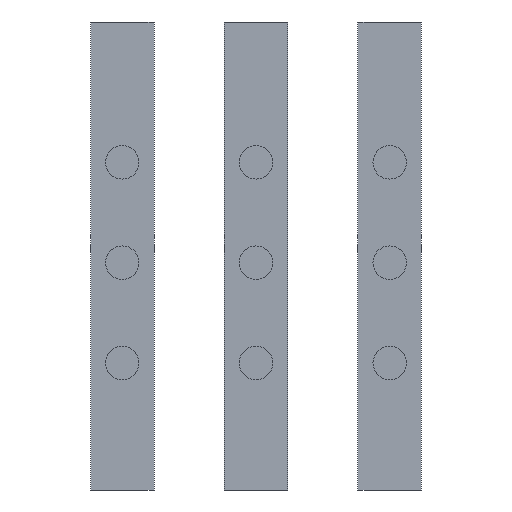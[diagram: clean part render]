
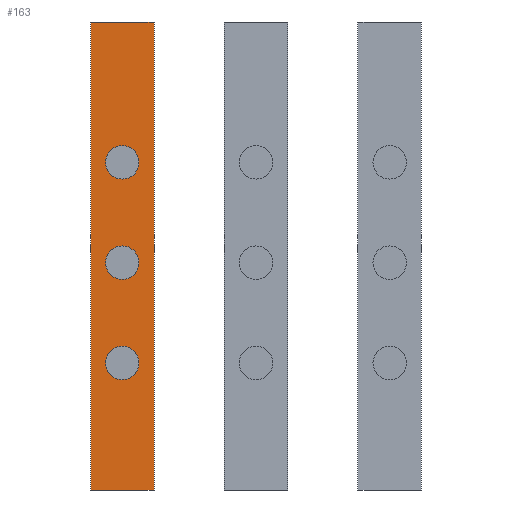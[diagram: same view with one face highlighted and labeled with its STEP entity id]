
A CAD part, front view. The second image highlights one B-rep face of the part: STEP entity #163.
In plain terms, the highlighted planar face has unit normal (0, -1, 0).
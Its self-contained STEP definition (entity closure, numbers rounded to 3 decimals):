
#47 = EDGE_CURVE('',#48,#50,#52,.T.);
#48 = VERTEX_POINT('',#49);
#49 = CARTESIAN_POINT('',(-36.,-34.,-115.));
#50 = VERTEX_POINT('',#51);
#51 = CARTESIAN_POINT('',(-36.,-34.,-45.));
#52 = SURFACE_CURVE('',#53,(#57,#69),.PCURVE_S1.);
#53 = LINE('',#54,#55);
#54 = CARTESIAN_POINT('',(-36.,-34.,-115.));
#55 = VECTOR('',#56,1.);
#56 = DIRECTION('',(0.,0.,1.));
#57 = PCURVE('',#58,#63);
#58 = PLANE('',#59);
#59 = AXIS2_PLACEMENT_3D('',#60,#61,#62);
#60 = CARTESIAN_POINT('',(-36.,-34.,-115.));
#61 = DIRECTION('',(1.,0.,0.));
#62 = DIRECTION('',(0.,0.,1.));
#63 = DEFINITIONAL_REPRESENTATION('',(#64),#68);
#64 = LINE('',#65,#66);
#65 = CARTESIAN_POINT('',(0.,0.));
#66 = VECTOR('',#67,1.);
#67 = DIRECTION('',(1.,0.));
#68 = ( GEOMETRIC_REPRESENTATION_CONTEXT(2) 
PARAMETRIC_REPRESENTATION_CONTEXT() REPRESENTATION_CONTEXT('2D SPACE',''
  ) );
#69 = PCURVE('',#70,#75);
#70 = PLANE('',#71);
#71 = AXIS2_PLACEMENT_3D('',#72,#73,#74);
#72 = CARTESIAN_POINT('',(-36.,-34.,-115.));
#73 = DIRECTION('',(0.,1.,0.));
#74 = DIRECTION('',(0.,0.,1.));
#75 = DEFINITIONAL_REPRESENTATION('',(#76),#80);
#76 = LINE('',#77,#78);
#77 = CARTESIAN_POINT('',(0.,0.));
#78 = VECTOR('',#79,1.);
#79 = DIRECTION('',(1.,0.));
#80 = ( GEOMETRIC_REPRESENTATION_CONTEXT(2) 
PARAMETRIC_REPRESENTATION_CONTEXT() REPRESENTATION_CONTEXT('2D SPACE',''
  ) );
#98 = PLANE('',#99);
#99 = AXIS2_PLACEMENT_3D('',#100,#101,#102);
#100 = CARTESIAN_POINT('',(-36.,-34.,-115.));
#101 = DIRECTION('',(0.,0.,1.));
#102 = DIRECTION('',(1.,0.,0.));
#152 = PLANE('',#153);
#153 = AXIS2_PLACEMENT_3D('',#154,#155,#156);
#154 = CARTESIAN_POINT('',(-36.,-34.,-45.));
#155 = DIRECTION('',(0.,0.,1.));
#156 = DIRECTION('',(1.,0.,0.));
#163 = ADVANCED_FACE('',(#164,#239,#274,#309),#70,.F.);
#164 = FACE_BOUND('',#165,.F.);
#165 = EDGE_LOOP('',(#166,#189,#190,#213));
#166 = ORIENTED_EDGE('',*,*,#167,.F.);
#167 = EDGE_CURVE('',#48,#168,#170,.T.);
#168 = VERTEX_POINT('',#169);
#169 = CARTESIAN_POINT('',(-26.5,-34.,-115.));
#170 = SURFACE_CURVE('',#171,(#175,#182),.PCURVE_S1.);
#171 = LINE('',#172,#173);
#172 = CARTESIAN_POINT('',(-36.,-34.,-115.));
#173 = VECTOR('',#174,1.);
#174 = DIRECTION('',(1.,0.,0.));
#175 = PCURVE('',#70,#176);
#176 = DEFINITIONAL_REPRESENTATION('',(#177),#181);
#177 = LINE('',#178,#179);
#178 = CARTESIAN_POINT('',(0.,0.));
#179 = VECTOR('',#180,1.);
#180 = DIRECTION('',(0.,1.));
#181 = ( GEOMETRIC_REPRESENTATION_CONTEXT(2) 
PARAMETRIC_REPRESENTATION_CONTEXT() REPRESENTATION_CONTEXT('2D SPACE',''
  ) );
#182 = PCURVE('',#98,#183);
#183 = DEFINITIONAL_REPRESENTATION('',(#184),#188);
#184 = LINE('',#185,#186);
#185 = CARTESIAN_POINT('',(0.,0.));
#186 = VECTOR('',#187,1.);
#187 = DIRECTION('',(1.,0.));
#188 = ( GEOMETRIC_REPRESENTATION_CONTEXT(2) 
PARAMETRIC_REPRESENTATION_CONTEXT() REPRESENTATION_CONTEXT('2D SPACE',''
  ) );
#189 = ORIENTED_EDGE('',*,*,#47,.T.);
#190 = ORIENTED_EDGE('',*,*,#191,.T.);
#191 = EDGE_CURVE('',#50,#192,#194,.T.);
#192 = VERTEX_POINT('',#193);
#193 = CARTESIAN_POINT('',(-26.5,-34.,-45.));
#194 = SURFACE_CURVE('',#195,(#199,#206),.PCURVE_S1.);
#195 = LINE('',#196,#197);
#196 = CARTESIAN_POINT('',(-36.,-34.,-45.));
#197 = VECTOR('',#198,1.);
#198 = DIRECTION('',(1.,0.,0.));
#199 = PCURVE('',#70,#200);
#200 = DEFINITIONAL_REPRESENTATION('',(#201),#205);
#201 = LINE('',#202,#203);
#202 = CARTESIAN_POINT('',(70.,0.));
#203 = VECTOR('',#204,1.);
#204 = DIRECTION('',(0.,1.));
#205 = ( GEOMETRIC_REPRESENTATION_CONTEXT(2) 
PARAMETRIC_REPRESENTATION_CONTEXT() REPRESENTATION_CONTEXT('2D SPACE',''
  ) );
#206 = PCURVE('',#152,#207);
#207 = DEFINITIONAL_REPRESENTATION('',(#208),#212);
#208 = LINE('',#209,#210);
#209 = CARTESIAN_POINT('',(0.,0.));
#210 = VECTOR('',#211,1.);
#211 = DIRECTION('',(1.,0.));
#212 = ( GEOMETRIC_REPRESENTATION_CONTEXT(2) 
PARAMETRIC_REPRESENTATION_CONTEXT() REPRESENTATION_CONTEXT('2D SPACE',''
  ) );
#213 = ORIENTED_EDGE('',*,*,#214,.F.);
#214 = EDGE_CURVE('',#168,#192,#215,.T.);
#215 = SURFACE_CURVE('',#216,(#220,#227),.PCURVE_S1.);
#216 = LINE('',#217,#218);
#217 = CARTESIAN_POINT('',(-26.5,-34.,-115.));
#218 = VECTOR('',#219,1.);
#219 = DIRECTION('',(0.,0.,1.));
#220 = PCURVE('',#70,#221);
#221 = DEFINITIONAL_REPRESENTATION('',(#222),#226);
#222 = LINE('',#223,#224);
#223 = CARTESIAN_POINT('',(0.,9.5));
#224 = VECTOR('',#225,1.);
#225 = DIRECTION('',(1.,0.));
#226 = ( GEOMETRIC_REPRESENTATION_CONTEXT(2) 
PARAMETRIC_REPRESENTATION_CONTEXT() REPRESENTATION_CONTEXT('2D SPACE',''
  ) );
#227 = PCURVE('',#228,#233);
#228 = PLANE('',#229);
#229 = AXIS2_PLACEMENT_3D('',#230,#231,#232);
#230 = CARTESIAN_POINT('',(-26.5,-34.,-115.));
#231 = DIRECTION('',(1.,0.,0.));
#232 = DIRECTION('',(0.,0.,1.));
#233 = DEFINITIONAL_REPRESENTATION('',(#234),#238);
#234 = LINE('',#235,#236);
#235 = CARTESIAN_POINT('',(0.,0.));
#236 = VECTOR('',#237,1.);
#237 = DIRECTION('',(1.,0.));
#238 = ( GEOMETRIC_REPRESENTATION_CONTEXT(2) 
PARAMETRIC_REPRESENTATION_CONTEXT() REPRESENTATION_CONTEXT('2D SPACE',''
  ) );
#239 = FACE_BOUND('',#240,.F.);
#240 = EDGE_LOOP('',(#241));
#241 = ORIENTED_EDGE('',*,*,#242,.T.);
#242 = EDGE_CURVE('',#243,#243,#245,.T.);
#243 = VERTEX_POINT('',#244);
#244 = CARTESIAN_POINT('',(-30.05,-34.,-96.));
#245 = SURFACE_CURVE('',#246,(#251,#262),.PCURVE_S1.);
#246 = CIRCLE('',#247,1.2);
#247 = AXIS2_PLACEMENT_3D('',#248,#249,#250);
#248 = CARTESIAN_POINT('',(-31.25,-34.,-96.));
#249 = DIRECTION('',(0.,-1.,-0.));
#250 = DIRECTION('',(1.,0.,0.));
#251 = PCURVE('',#70,#252);
#252 = DEFINITIONAL_REPRESENTATION('',(#253),#261);
#253 = ( BOUNDED_CURVE() B_SPLINE_CURVE(2,(#254,#255,#256,#257,#258,#259
,#260),.UNSPECIFIED.,.T.,.F.) B_SPLINE_CURVE_WITH_KNOTS((1,2,2,2,2,1),(
    -2.094,0.,2.094,4.189,6.283,
8.378),.UNSPECIFIED.) CURVE() GEOMETRIC_REPRESENTATION_ITEM() 
RATIONAL_B_SPLINE_CURVE((1.,0.5,1.,0.5,1.,0.5,1.)) REPRESENTATION_ITEM(
  '') );
#254 = CARTESIAN_POINT('',(19.,5.95));
#255 = CARTESIAN_POINT('',(21.078,5.95));
#256 = CARTESIAN_POINT('',(20.039,4.15));
#257 = CARTESIAN_POINT('',(19.,2.35));
#258 = CARTESIAN_POINT('',(17.961,4.15));
#259 = CARTESIAN_POINT('',(16.922,5.95));
#260 = CARTESIAN_POINT('',(19.,5.95));
#261 = ( GEOMETRIC_REPRESENTATION_CONTEXT(2) 
PARAMETRIC_REPRESENTATION_CONTEXT() REPRESENTATION_CONTEXT('2D SPACE',''
  ) );
#262 = PCURVE('',#263,#268);
#263 = CYLINDRICAL_SURFACE('',#264,1.2);
#264 = AXIS2_PLACEMENT_3D('',#265,#266,#267);
#265 = CARTESIAN_POINT('',(-31.25,-36.51,-96.));
#266 = DIRECTION('',(0.,-1.,-0.));
#267 = DIRECTION('',(1.,0.,0.));
#268 = DEFINITIONAL_REPRESENTATION('',(#269),#273);
#269 = LINE('',#270,#271);
#270 = CARTESIAN_POINT('',(-6.283,-2.51));
#271 = VECTOR('',#272,1.);
#272 = DIRECTION('',(1.,-0.));
#273 = ( GEOMETRIC_REPRESENTATION_CONTEXT(2) 
PARAMETRIC_REPRESENTATION_CONTEXT() REPRESENTATION_CONTEXT('2D SPACE',''
  ) );
#274 = FACE_BOUND('',#275,.F.);
#275 = EDGE_LOOP('',(#276));
#276 = ORIENTED_EDGE('',*,*,#277,.T.);
#277 = EDGE_CURVE('',#278,#278,#280,.T.);
#278 = VERTEX_POINT('',#279);
#279 = CARTESIAN_POINT('',(-30.05,-34.,-81.));
#280 = SURFACE_CURVE('',#281,(#286,#297),.PCURVE_S1.);
#281 = CIRCLE('',#282,1.2);
#282 = AXIS2_PLACEMENT_3D('',#283,#284,#285);
#283 = CARTESIAN_POINT('',(-31.25,-34.,-81.));
#284 = DIRECTION('',(0.,-1.,-0.));
#285 = DIRECTION('',(1.,0.,0.));
#286 = PCURVE('',#70,#287);
#287 = DEFINITIONAL_REPRESENTATION('',(#288),#296);
#288 = ( BOUNDED_CURVE() B_SPLINE_CURVE(2,(#289,#290,#291,#292,#293,#294
,#295),.UNSPECIFIED.,.T.,.F.) B_SPLINE_CURVE_WITH_KNOTS((1,2,2,2,2,1),(
    -2.094,0.,2.094,4.189,6.283,
8.378),.UNSPECIFIED.) CURVE() GEOMETRIC_REPRESENTATION_ITEM() 
RATIONAL_B_SPLINE_CURVE((1.,0.5,1.,0.5,1.,0.5,1.)) REPRESENTATION_ITEM(
  '') );
#289 = CARTESIAN_POINT('',(34.,5.95));
#290 = CARTESIAN_POINT('',(36.078,5.95));
#291 = CARTESIAN_POINT('',(35.039,4.15));
#292 = CARTESIAN_POINT('',(34.,2.35));
#293 = CARTESIAN_POINT('',(32.961,4.15));
#294 = CARTESIAN_POINT('',(31.922,5.95));
#295 = CARTESIAN_POINT('',(34.,5.95));
#296 = ( GEOMETRIC_REPRESENTATION_CONTEXT(2) 
PARAMETRIC_REPRESENTATION_CONTEXT() REPRESENTATION_CONTEXT('2D SPACE',''
  ) );
#297 = PCURVE('',#298,#303);
#298 = CYLINDRICAL_SURFACE('',#299,1.2);
#299 = AXIS2_PLACEMENT_3D('',#300,#301,#302);
#300 = CARTESIAN_POINT('',(-31.25,-36.51,-81.));
#301 = DIRECTION('',(0.,-1.,-0.));
#302 = DIRECTION('',(1.,0.,0.));
#303 = DEFINITIONAL_REPRESENTATION('',(#304),#308);
#304 = LINE('',#305,#306);
#305 = CARTESIAN_POINT('',(-6.283,-2.51));
#306 = VECTOR('',#307,1.);
#307 = DIRECTION('',(1.,-0.));
#308 = ( GEOMETRIC_REPRESENTATION_CONTEXT(2) 
PARAMETRIC_REPRESENTATION_CONTEXT() REPRESENTATION_CONTEXT('2D SPACE',''
  ) );
#309 = FACE_BOUND('',#310,.F.);
#310 = EDGE_LOOP('',(#311));
#311 = ORIENTED_EDGE('',*,*,#312,.T.);
#312 = EDGE_CURVE('',#313,#313,#315,.T.);
#313 = VERTEX_POINT('',#314);
#314 = CARTESIAN_POINT('',(-30.05,-34.,-66.));
#315 = SURFACE_CURVE('',#316,(#321,#332),.PCURVE_S1.);
#316 = CIRCLE('',#317,1.2);
#317 = AXIS2_PLACEMENT_3D('',#318,#319,#320);
#318 = CARTESIAN_POINT('',(-31.25,-34.,-66.));
#319 = DIRECTION('',(0.,-1.,-0.));
#320 = DIRECTION('',(1.,0.,0.));
#321 = PCURVE('',#70,#322);
#322 = DEFINITIONAL_REPRESENTATION('',(#323),#331);
#323 = ( BOUNDED_CURVE() B_SPLINE_CURVE(2,(#324,#325,#326,#327,#328,#329
,#330),.UNSPECIFIED.,.T.,.F.) B_SPLINE_CURVE_WITH_KNOTS((1,2,2,2,2,1),(
    -2.094,0.,2.094,4.189,6.283,
8.378),.UNSPECIFIED.) CURVE() GEOMETRIC_REPRESENTATION_ITEM() 
RATIONAL_B_SPLINE_CURVE((1.,0.5,1.,0.5,1.,0.5,1.)) REPRESENTATION_ITEM(
  '') );
#324 = CARTESIAN_POINT('',(49.,5.95));
#325 = CARTESIAN_POINT('',(51.078,5.95));
#326 = CARTESIAN_POINT('',(50.039,4.15));
#327 = CARTESIAN_POINT('',(49.,2.35));
#328 = CARTESIAN_POINT('',(47.961,4.15));
#329 = CARTESIAN_POINT('',(46.922,5.95));
#330 = CARTESIAN_POINT('',(49.,5.95));
#331 = ( GEOMETRIC_REPRESENTATION_CONTEXT(2) 
PARAMETRIC_REPRESENTATION_CONTEXT() REPRESENTATION_CONTEXT('2D SPACE',''
  ) );
#332 = PCURVE('',#333,#338);
#333 = CYLINDRICAL_SURFACE('',#334,1.2);
#334 = AXIS2_PLACEMENT_3D('',#335,#336,#337);
#335 = CARTESIAN_POINT('',(-31.25,-36.51,-66.));
#336 = DIRECTION('',(0.,-1.,-0.));
#337 = DIRECTION('',(1.,0.,0.));
#338 = DEFINITIONAL_REPRESENTATION('',(#339),#343);
#339 = LINE('',#340,#341);
#340 = CARTESIAN_POINT('',(-6.283,-2.51));
#341 = VECTOR('',#342,1.);
#342 = DIRECTION('',(1.,-0.));
#343 = ( GEOMETRIC_REPRESENTATION_CONTEXT(2) 
PARAMETRIC_REPRESENTATION_CONTEXT() REPRESENTATION_CONTEXT('2D SPACE',''
  ) );
